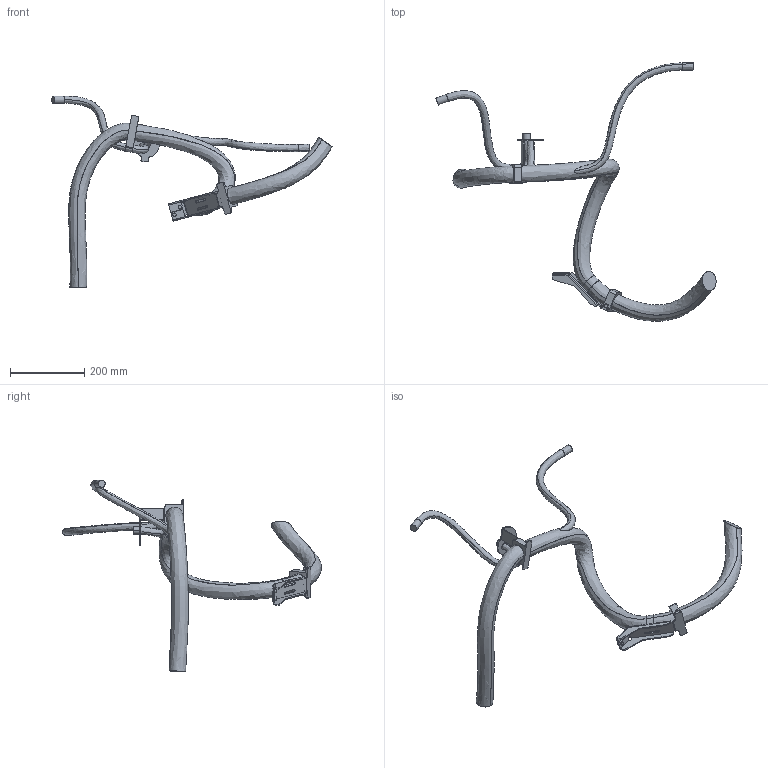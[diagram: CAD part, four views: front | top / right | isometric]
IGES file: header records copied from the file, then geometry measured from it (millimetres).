
Start section: SolidWorks IGES file using analytic representation for surfaces
Global section: file name: N:\DM\Robotics\SEROP_PROJ\Product Development\DevelopmentProjects\Manipulator_Modularity\04. Product Design\06. CAD\Amanda\6730S Simulation models\IRB6730S_150kg-400_OC_01_IGES_J\IRB6730S-ALL-OC_00_LINK01m_CABLE.igs; native system: SolidWorks 2024; preprocessor: SolidWorks 2024; author: SEJOHLUN; date: 251219.135725; units: millimetre
Bounding box: 756.41 x 698.48 x 518.2 mm (x, y, z)
Surface area: 340759 mm2 (no closed solid volume)
Topology: 0 solids, 0 shells, 237 faces, 3824 edges, 3824 vertices
Faces by surface type: bspline 155, revolution 82
